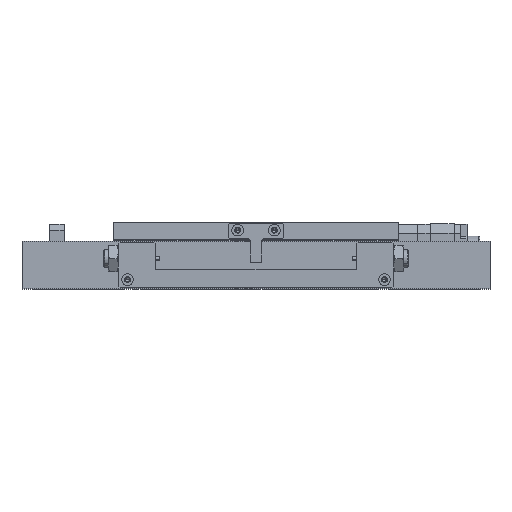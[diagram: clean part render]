
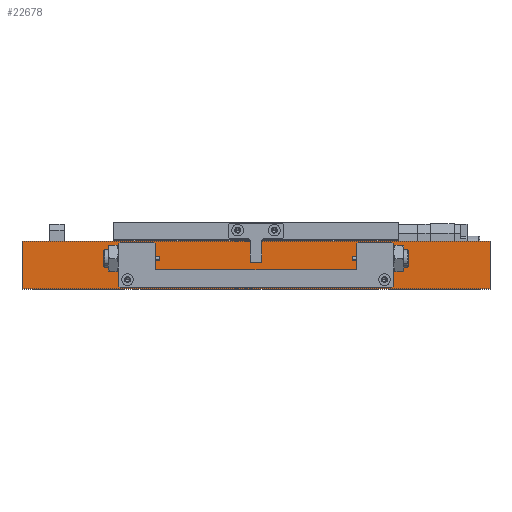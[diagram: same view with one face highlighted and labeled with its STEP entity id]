
A CAD part, top view. The second image highlights one B-rep face of the part: STEP entity #22678.
In plain terms, the highlighted planar face has unit normal (0, 0, 1).
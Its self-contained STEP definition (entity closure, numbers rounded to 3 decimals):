
#703 = EDGE_LOOP ( 'NONE', ( #1567, #20854 ) ) ;
#982 = EDGE_CURVE ( 'NONE', #9192, #15534, #24224, .T. ) ;
#1567 = ORIENTED_EDGE ( 'NONE', *, *, #22175, .F. ) ;
#1658 = DIRECTION ( 'NONE',  ( 1., 0., 0. ) ) ;
#2135 = CARTESIAN_POINT ( 'NONE',  ( -127.5, 26., 42.5 ) ) ;
#2609 = CARTESIAN_POINT ( 'NONE',  ( 127.5, 26., 42.5 ) ) ;
#2838 = ORIENTED_EDGE ( 'NONE', *, *, #8930, .F. ) ;
#4342 = FACE_BOUND ( 'NONE', #19930, .T. ) ;
#4479 = DIRECTION ( 'NONE',  ( 1., 0., 0. ) ) ;
#4585 = CARTESIAN_POINT ( 'NONE',  ( 127.5, 26., 42.5 ) ) ;
#4722 = CARTESIAN_POINT ( 'NONE',  ( -127.5, 26., 42.5 ) ) ;
#4738 = ORIENTED_EDGE ( 'NONE', *, *, #14625, .T. ) ;
#5969 = VECTOR ( 'NONE', #20541, 1000. ) ;
#6768 = DIRECTION ( 'NONE',  ( 0., 0., 1. ) ) ;
#6835 = PLANE ( 'NONE',  #22059 ) ;
#7846 = AXIS2_PLACEMENT_3D ( 'NONE', #14305, #22532, #4479 ) ;
#8205 = DIRECTION ( 'NONE',  ( 0., 0., 1. ) ) ;
#8453 = VERTEX_POINT ( 'NONE', #24550 ) ;
#8667 = DIRECTION ( 'NONE',  ( -1., 0., 0. ) ) ;
#8829 = CARTESIAN_POINT ( 'NONE',  ( -127.5, 26., 42.5 ) ) ;
#8930 = EDGE_CURVE ( 'NONE', #13504, #8453, #18694, .T. ) ;
#9192 = VERTEX_POINT ( 'NONE', #4585 ) ;
#10236 = CARTESIAN_POINT ( 'NONE',  ( 127.5, 0., 42.5 ) ) ;
#10491 = EDGE_CURVE ( 'NONE', #8453, #13504, #14981, .T. ) ;
#10692 = CARTESIAN_POINT ( 'NONE',  ( -70., 5., 42.5 ) ) ;
#10991 = VERTEX_POINT ( 'NONE', #15658 ) ;
#12151 = ORIENTED_EDGE ( 'NONE', *, *, #10491, .F. ) ;
#12737 = DIRECTION ( 'NONE',  ( 0., 0., -1. ) ) ;
#12865 = AXIS2_PLACEMENT_3D ( 'NONE', #10692, #6768, #14742 ) ;
#13104 = VECTOR ( 'NONE', #1658, 1000. ) ;
#13497 = CARTESIAN_POINT ( 'NONE',  ( -127.5, 0., 42.5 ) ) ;
#13504 = VERTEX_POINT ( 'NONE', #24581 ) ;
#13579 = CARTESIAN_POINT ( 'NONE',  ( -127.5, 0., 42.5 ) ) ;
#13858 = DIRECTION ( 'NONE',  ( 1., 0., 0. ) ) ;
#13930 = DIRECTION ( 'NONE',  ( 1., 0., 0. ) ) ;
#14082 = EDGE_CURVE ( 'NONE', #18975, #9192, #23988, .T. ) ;
#14132 = ORIENTED_EDGE ( 'NONE', *, *, #982, .F. ) ;
#14222 = ORIENTED_EDGE ( 'NONE', *, *, #14082, .F. ) ;
#14305 = CARTESIAN_POINT ( 'NONE',  ( 70., 5., 42.5 ) ) ;
#14413 = CARTESIAN_POINT ( 'NONE',  ( -127.5, 26., 42.5 ) ) ;
#14625 = EDGE_CURVE ( 'NONE', #16873, #15534, #23387, .T. ) ;
#14742 = DIRECTION ( 'NONE',  ( 1., 0., 0. ) ) ;
#14976 = VECTOR ( 'NONE', #18579, 1000. ) ;
#14981 = CIRCLE ( 'NONE', #16647, 1.25 ) ;
#15297 = DIRECTION ( 'NONE',  ( 1., 0., 0. ) ) ;
#15534 = VERTEX_POINT ( 'NONE', #10236 ) ;
#15658 = CARTESIAN_POINT ( 'NONE',  ( -68.75, 5., 42.5 ) ) ;
#16647 = AXIS2_PLACEMENT_3D ( 'NONE', #25138, #25259, #15297 ) ;
#16873 = VERTEX_POINT ( 'NONE', #13497 ) ;
#17239 = ORIENTED_EDGE ( 'NONE', *, *, #17791, .T. ) ;
#17305 = CARTESIAN_POINT ( 'NONE',  ( -71.25, 5., 42.5 ) ) ;
#17791 = EDGE_CURVE ( 'NONE', #18975, #16873, #18349, .T. ) ;
#18108 = VECTOR ( 'NONE', #13930, 1000. ) ;
#18349 = LINE ( 'NONE', #14413, #14976 ) ;
#18579 = DIRECTION ( 'NONE',  ( 0., -1., 0. ) ) ;
#18588 = AXIS2_PLACEMENT_3D ( 'NONE', #23911, #8205, #13858 ) ;
#18694 = CIRCLE ( 'NONE', #7846, 1.25 ) ;
#18716 = FACE_OUTER_BOUND ( 'NONE', #20160, .T. ) ;
#18975 = VERTEX_POINT ( 'NONE', #8829 ) ;
#19930 = EDGE_LOOP ( 'NONE', ( #2838, #12151 ) ) ;
#20160 = EDGE_LOOP ( 'NONE', ( #4738, #14132, #14222, #17239 ) ) ;
#20541 = DIRECTION ( 'NONE',  ( 0., -1., 0. ) ) ;
#20854 = ORIENTED_EDGE ( 'NONE', *, *, #20956, .F. ) ;
#20956 = EDGE_CURVE ( 'NONE', #25134, #10991, #24464, .T. ) ;
#22059 = AXIS2_PLACEMENT_3D ( 'NONE', #4722, #12737, #8667 ) ;
#22175 = EDGE_CURVE ( 'NONE', #10991, #25134, #24122, .T. ) ;
#22532 = DIRECTION ( 'NONE',  ( 0., 0., 1. ) ) ;
#22678 = ADVANCED_FACE ( 'NONE', ( #24495, #4342, #18716 ), #6835, .F. ) ;
#23387 = LINE ( 'NONE', #13579, #13104 ) ;
#23911 = CARTESIAN_POINT ( 'NONE',  ( -70., 5., 42.5 ) ) ;
#23988 = LINE ( 'NONE', #2135, #18108 ) ;
#24122 = CIRCLE ( 'NONE', #12865, 1.25 ) ;
#24224 = LINE ( 'NONE', #2609, #5969 ) ;
#24464 = CIRCLE ( 'NONE', #18588, 1.25 ) ;
#24495 = FACE_BOUND ( 'NONE', #703, .T. ) ;
#24550 = CARTESIAN_POINT ( 'NONE',  ( 68.75, 5., 42.5 ) ) ;
#24581 = CARTESIAN_POINT ( 'NONE',  ( 71.25, 5., 42.5 ) ) ;
#25134 = VERTEX_POINT ( 'NONE', #17305 ) ;
#25138 = CARTESIAN_POINT ( 'NONE',  ( 70., 5., 42.5 ) ) ;
#25259 = DIRECTION ( 'NONE',  ( 0., 0., 1. ) ) ;
